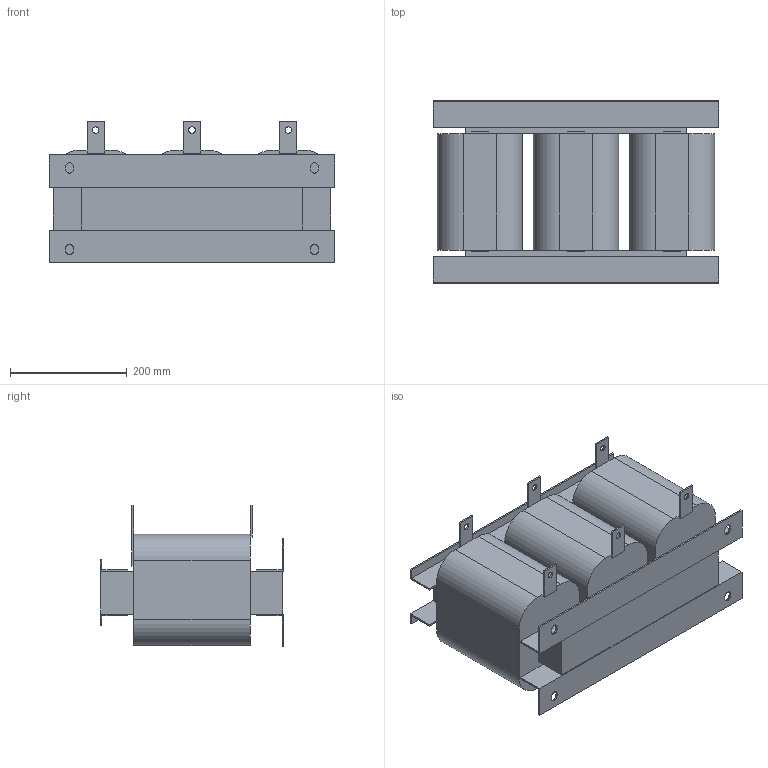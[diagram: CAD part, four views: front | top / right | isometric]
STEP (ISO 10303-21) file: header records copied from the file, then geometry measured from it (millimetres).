
FILE_DESCRIPTION(/* description */ (''),/* implementation_level */ '2;1');
FILE_NAME(/* name */ 'ACO-0175-T6-4.stp',/* time_stamp */ '2025-01-23T16:20:47+04:00',/* author */ ('Александр (огранич)'),/* organization */ (''),/* preprocessor_version */ 'ST-DEVELOPER v19.2',/* originating_system */ 'Autodesk Inventor 2024',/* authorisation */ '');
FILE_SCHEMA (('AUTOMOTIVE_DESIGN { 1 0 10303 214 3 1 1 }'));
Length unit declared in the file: millimetre
Products named in the file (1): ACO-0015-T4-4
Bounding box: 490 x 315 x 242.5 mm (x, y, z)
Volume: 19316521.7 mm3; surface area: 844620.2 mm2
Topology: 1 solids, 1 shells, 136 faces, 378 edges, 240 vertices
Faces by surface type: plane 110, cylinder 26
Full cylindrical faces by diameter (mm): 11 x6
Entity records: 4357 total; most frequent: ORIENTED_EDGE 756, CARTESIAN_POINT 755, DIRECTION 704, EDGE_CURVE 378, LINE 326, VECTOR 326, VERTEX_POINT 240, AXIS2_PLACEMENT_3D 189
